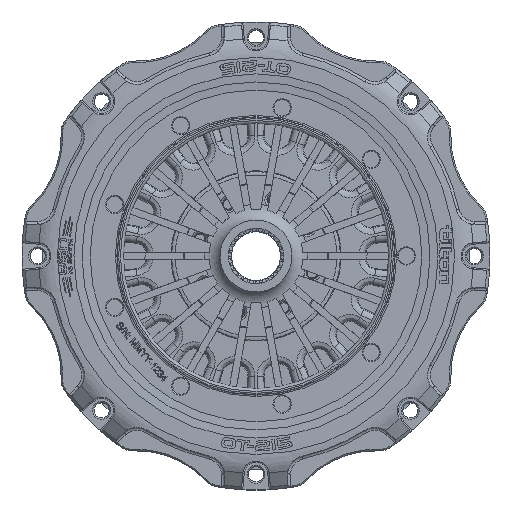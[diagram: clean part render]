
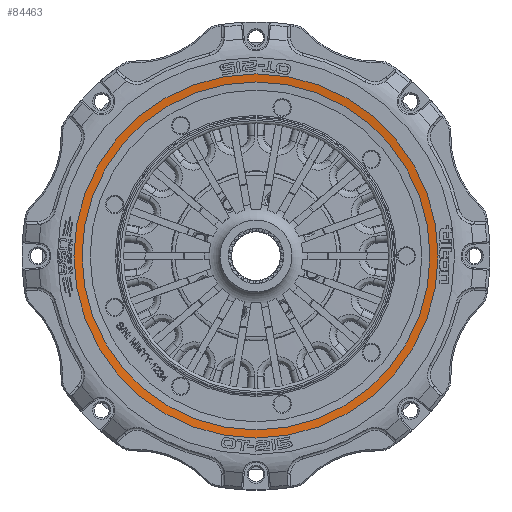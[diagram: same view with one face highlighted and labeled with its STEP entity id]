
A CAD part, top view. The second image highlights one B-rep face of the part: STEP entity #84463.
In plain terms, the highlighted toroidal (fillet/blend) face has major radius 98.425 mm and minor radius 25.4 mm.
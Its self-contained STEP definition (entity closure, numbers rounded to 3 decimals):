
#441=TOROIDAL_SURFACE('',#88541,98.425,25.4);
#14168=ORIENTED_EDGE('',*,*,#32773,.T.);
#14169=ORIENTED_EDGE('',*,*,#32368,.F.);
#32368=EDGE_CURVE('',#41742,#41742,#47685,.F.);
#32773=EDGE_CURVE('',#42058,#42058,#47812,.F.);
#41742=VERTEX_POINT('',#112332);
#42058=VERTEX_POINT('',#114015);
#47685=CIRCLE('',#88314,98.425);
#47812=CIRCLE('',#88542,94.042);
#50409=EDGE_LOOP('',(#14168));
#50410=EDGE_LOOP('',(#14169));
#54521=FACE_BOUND('',#50409,.T.);
#54522=FACE_BOUND('',#50410,.T.);
#84463=ADVANCED_FACE('',(#54521,#54522),#441,.T.);
#88314=AXIS2_PLACEMENT_3D('',#112331,#95476,#95477);
#88541=AXIS2_PLACEMENT_3D('',#114013,#96002,#96003);
#88542=AXIS2_PLACEMENT_3D('',#114014,#96004,#96005);
#95476=DIRECTION('',(0.,0.,1.));
#95477=DIRECTION('',(0.,-1.,0.));
#96002=DIRECTION('',(0.,0.,1.));
#96003=DIRECTION('',(0.,-1.,0.));
#96004=DIRECTION('',(0.,0.,1.));
#96005=DIRECTION('',(0.,-1.,0.));
#112331=CARTESIAN_POINT('',(0.,0.,66.421));
#112332=CARTESIAN_POINT('',(0.,-98.425,66.421));
#114013=CARTESIAN_POINT('',(0.,0.,41.021));
#114014=CARTESIAN_POINT('',(0.,0.,
66.04));
#114015=CARTESIAN_POINT('',(0.,-94.042,66.04));
